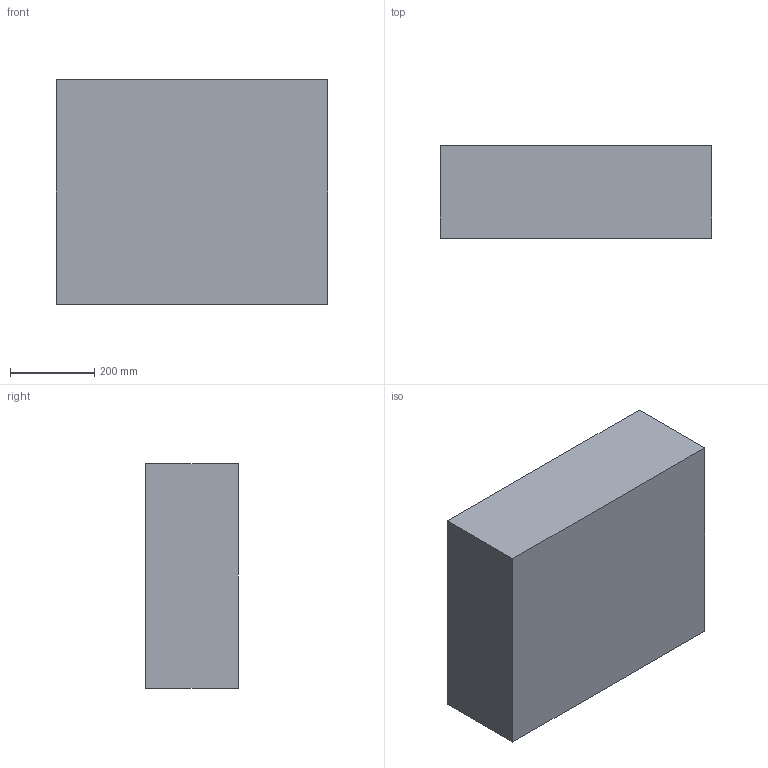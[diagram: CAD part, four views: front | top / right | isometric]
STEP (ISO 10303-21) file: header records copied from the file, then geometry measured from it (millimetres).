
FILE_DESCRIPTION (( 'STEP AP214' ), '1' );
FILE_NAME ('V600 TOP TUB 2-11-2024.STEP', '2024-02-12T00:08:19', ( '' ), ( '' ), 'SwSTEP 2.0', 'SolidWorks 2021', '' );
FILE_SCHEMA (( 'AUTOMOTIVE_DESIGN' ));
Length unit declared in the file: millimetre
Products named in the file (1): V600 TOP TUB 2-11-2024
Bounding box: 644.42 x 220.07 x 532.92 mm (x, y, z)
Volume: 23885681.9 mm3; surface area: 1667217 mm2
Topology: 1 solids, 1 shells, 567 faces, 1352 edges, 736 vertices
Faces by surface type: bspline 477, plane 90
Entity records: 22132 total; most frequent: CARTESIAN_POINT 13650, ORIENTED_EDGE 2586, EDGE_CURVE 1293, VERTEX_POINT 736, DIRECTION 662, EDGE_LOOP 575, FACE_OUTER_BOUND 567, ADVANCED_FACE 567
